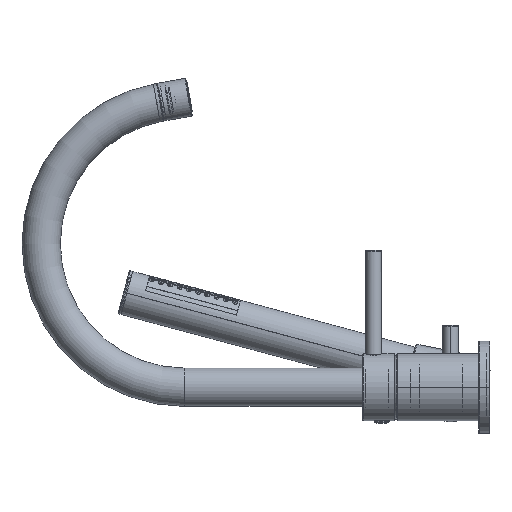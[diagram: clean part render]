
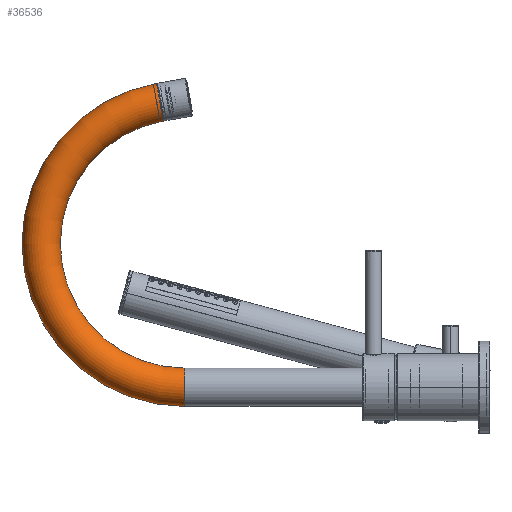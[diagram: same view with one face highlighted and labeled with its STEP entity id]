
A CAD part, left-side view. The second image highlights one B-rep face of the part: STEP entity #36536.
In plain terms, the highlighted toroidal (fillet/blend) face has major radius 90 mm and minor radius 12 mm.
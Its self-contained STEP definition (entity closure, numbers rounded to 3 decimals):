
#36268=CARTESIAN_POINT('',(0.,194.,0.));
#36269=DIRECTION('',(0.,-1.,0.));
#36270=DIRECTION('',(0.,0.,1.));
#36271=AXIS2_PLACEMENT_3D('',#36268,#36269,#36270);
#36273=CARTESIAN_POINT('',(0.,209.628,178.633));
#36274=DIRECTION('',(0.,-0.985,0.174));
#36275=DIRECTION('',(0.,0.174,0.985));
#36276=AXIS2_PLACEMENT_3D('',#36273,#36274,#36275);
#36278=CARTESIAN_POINT('',(0.,194.,90.));
#36279=DIRECTION('',(-1.,0.,0.));
#36280=DIRECTION('',(0.,0.174,0.985));
#36281=AXIS2_PLACEMENT_3D('',#36278,#36279,#36280);
#36293=CARTESIAN_POINT('',(0.,194.,90.));
#36294=DIRECTION('',(-1.,0.,0.));
#36295=DIRECTION('',(0.,0.174,0.985));
#36296=AXIS2_PLACEMENT_3D('',#36293,#36294,#36295);
#36442=CARTESIAN_POINT('',(0.,194.,12.));
#36443=VERTEX_POINT('',#36442);
#36444=CARTESIAN_POINT('',(0.,194.,-12.));
#36445=VERTEX_POINT('',#36444);
#36446=CARTESIAN_POINT('',(0.,211.712,190.45));
#36447=VERTEX_POINT('',#36446);
#36448=CARTESIAN_POINT('',(0.,207.545,166.815));
#36449=VERTEX_POINT('',#36448);
#36522=CARTESIAN_POINT('',(0.,194.,90.));
#36523=DIRECTION('',(1.,0.,0.));
#36524=DIRECTION('',(0.,0.,1.));
#36525=AXIS2_PLACEMENT_3D('',#36522,#36523,#36524);
#36526=TOROIDAL_SURFACE('',#36525,90.,12.);
#36527=ORIENTED_EDGE('',*,*,#36516,.T.);
#36529=ORIENTED_EDGE('',*,*,#36528,.F.);
#36531=ORIENTED_EDGE('',*,*,#36530,.T.);
#36533=ORIENTED_EDGE('',*,*,#36532,.T.);
#36534=EDGE_LOOP('',(#36527,#36529,#36531,#36533));
#36535=FACE_OUTER_BOUND('',#36534,.F.);
#36272=CIRCLE('',#36271,12.);
#36277=CIRCLE('',#36276,12.);
#36282=CIRCLE('',#36281,78.);
#36297=CIRCLE('',#36296,102.);
#36516=EDGE_CURVE('',#36443,#36445,#36272,.T.);
#36528=EDGE_CURVE('',#36447,#36445,#36297,.T.);
#36530=EDGE_CURVE('',#36447,#36449,#36277,.T.);
#36532=EDGE_CURVE('',#36449,#36443,#36282,.T.);
#36536=ADVANCED_FACE('',(#36535),#36526,.T.);
